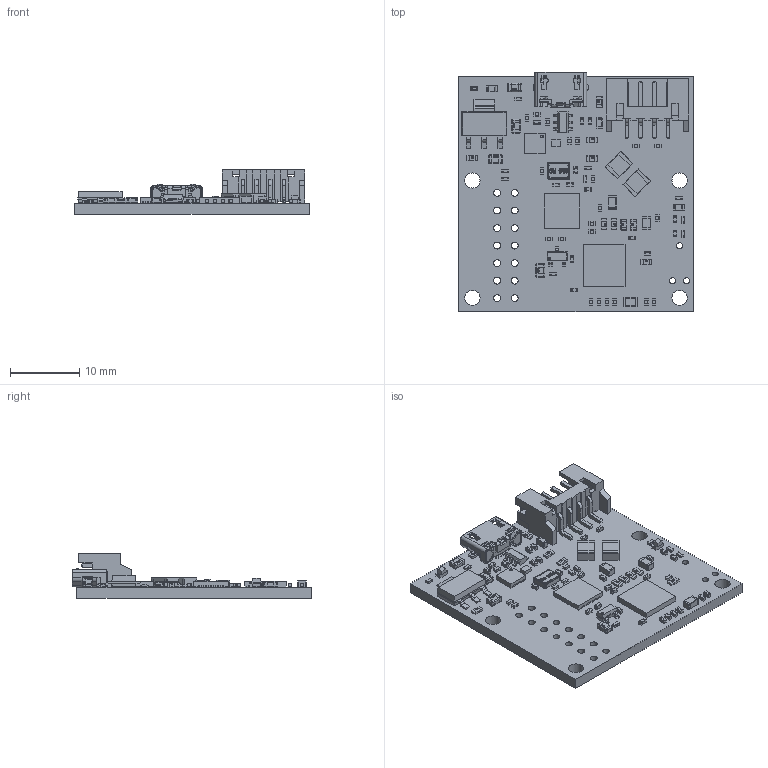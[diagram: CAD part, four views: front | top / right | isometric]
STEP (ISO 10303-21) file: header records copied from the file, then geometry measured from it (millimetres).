
FILE_DESCRIPTION(('Open CASCADE Model'),'2;1');
FILE_NAME('Open CASCADE Shape Model','2021-03-01T12:13:42',('Author'),( 'Open CASCADE'),'Open CASCADE STEP processor 6.8','Open CASCADE 6.8' ,'Unknown');
FILE_SCHEMA(('AUTOMOTIVE_DESIGN { 1 0 10303 214 1 1 1 1 }'));
Length unit declared in the file: millimetre
Products named in the file (105): PCB; Board; U3; User_Library-DFN12(3x3); LED3; User_Library-led0603_GRE; LED2; R14; User_Library-Chip_Resistor2; R13; R12; R10; R9; R8; R7; L5; User_Library-Chip_Inductor_(2); C30; cap_0402; C29; C28; C26; C25; C42; User_Library-0805_SMD_Capacitor; C41; User_Library-0603_SMD_Capacitor(1); C40; C39; C38; C37; C36; C35; C34; C33; C31; C22; C21; R6; C23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
Assembly tree (167 placements, depth 4):
  PCB
    Board
    U3
      User_Library-DFN12(3x3)
    LED3
      User_Library-led0603_GRE
    LED2
      User_Library-led0603_GRE
    R14
      User_Library-Chip_Resistor2
    R13
      User_Library-Chip_Resistor2
    R12
      User_Library-Chip_Resistor2
    R10
      User_Library-Chip_Resistor2
    R9
      User_Library-Chip_Resistor2
    R8
      User_Library-Chip_Resistor2
    R7
      User_Library-Chip_Resistor2
    L5
      User_Library-Chip_Inductor_(2)
    C30
      cap_0402
    C29
      cap_0402
    C28
      cap_0402
    C26
      cap_0402
    C25
      cap_0402
    C42
      User_Library-0805_SMD_Capacitor
    C41
      User_Library-0603_SMD_Capacitor(1)
    C40
      User_Library-0805_SMD_Capacitor
    C39
      cap_0402
    C38
      cap_0402
    C37
      cap_0402
    C36
      cap_0402
    C35
      cap_0402
    C34
      cap_0402
    C33
      User_Library-0603_SMD_Capacitor(1)
    C31
      cap_0402
    C22
      cap_0402
    C21
      cap_0402
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Bounding box: 34 x 34.66 x 6.4 mm (x, y, z)
Volume: 2134.8 mm3; surface area: 4124.5 mm2
Topology: 140 solids, 140 shells, 5183 faces, 12539 edges, 7258 vertices
Faces by surface type: plane 2472, cylinder 1621, bspline 542, sphere 510, cone 22, torus 16
Full cylindrical faces by diameter (mm): 0.889 x3, 1 x14, 2.2 x4
Entity records: 84703 total; most frequent: CARTESIAN_POINT 23976, ORIENTED_EDGE 11072, DIRECTION 10442, EDGE_CURVE 5536, LINE 4202, VECTOR 4202, VERTEX_POINT 3516, AXIS2_PLACEMENT_3D 3120
